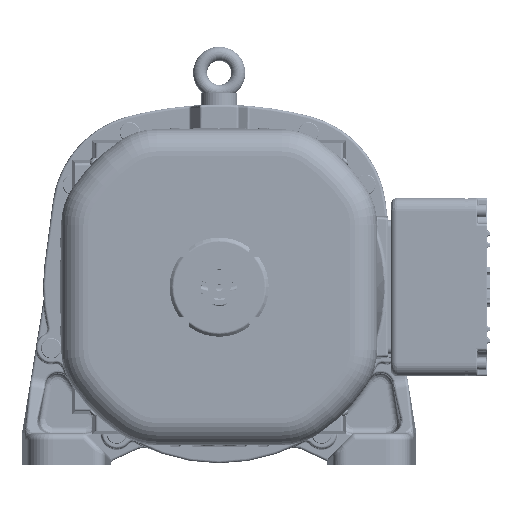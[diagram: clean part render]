
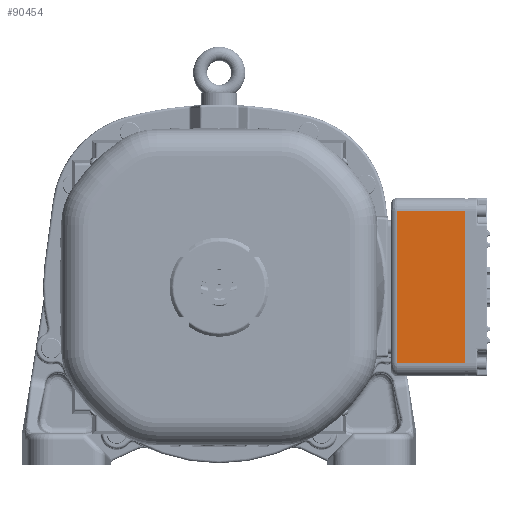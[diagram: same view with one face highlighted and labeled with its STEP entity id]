
A CAD part, front view. The second image highlights one B-rep face of the part: STEP entity #90454.
In plain terms, the highlighted planar face has unit normal (0, -1, 0).
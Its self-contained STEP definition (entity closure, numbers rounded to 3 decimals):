
#4409=PLANE('',#98778);
#8702=FACE_OUTER_BOUND('',#14260,.T.);
#14260=EDGE_LOOP('',(#71649,#71650,#71651,#71652));
#23035=LINE('',#202278,#27489);
#23081=LINE('',#202472,#27535);
#23086=LINE('',#202511,#27540);
#23087=LINE('',#202512,#27541);
#27489=VECTOR('',#116346,10.);
#27535=VECTOR('',#116528,10.);
#27540=VECTOR('',#116553,10.);
#27541=VECTOR('',#116554,10.);
#38215=VERTEX_POINT('',#202275);
#38216=VERTEX_POINT('',#202277);
#38275=VERTEX_POINT('',#202462);
#38277=VERTEX_POINT('',#202468);
#49736=EDGE_CURVE('',#38215,#38216,#23035,.T.);
#49823=EDGE_CURVE('',#38275,#38277,#23081,.T.);
#49835=EDGE_CURVE('',#38275,#38216,#23086,.T.);
#49836=EDGE_CURVE('',#38277,#38215,#23087,.T.);
#71649=ORIENTED_EDGE('',*,*,#49823,.F.);
#71650=ORIENTED_EDGE('',*,*,#49835,.T.);
#71651=ORIENTED_EDGE('',*,*,#49736,.F.);
#71652=ORIENTED_EDGE('',*,*,#49836,.F.);
#90454=ADVANCED_FACE('',(#8702),#4409,.T.);
#98778=AXIS2_PLACEMENT_3D('',#202510,#116551,#116552);
#116346=DIRECTION('',(0.,0.,-1.));
#116528=DIRECTION('',(0.,0.,1.));
#116551=DIRECTION('center_axis',(0.,-1.,0.));
#116552=DIRECTION('ref_axis',(0.,0.,
-1.));
#116553=DIRECTION('',(1.,0.,0.));
#116554=DIRECTION('',(1.,0.,0.));
#202275=CARTESIAN_POINT('',(182.454,-279.758,58.25));
#202277=CARTESIAN_POINT('',(182.454,-279.758,-61.75));
#202278=CARTESIAN_POINT('',(182.454,-279.758,-61.75));
#202462=CARTESIAN_POINT('',(129.454,-279.758,-61.75));
#202468=CARTESIAN_POINT('',(129.454,-279.758,58.25));
#202472=CARTESIAN_POINT('',(129.454,-279.758,28.25));
#202510=CARTESIAN_POINT('Origin',(124.454,-279.758,58.25));
#202511=CARTESIAN_POINT('',(124.454,-279.758,-61.75));
#202512=CARTESIAN_POINT('',(124.454,-279.758,58.25));
